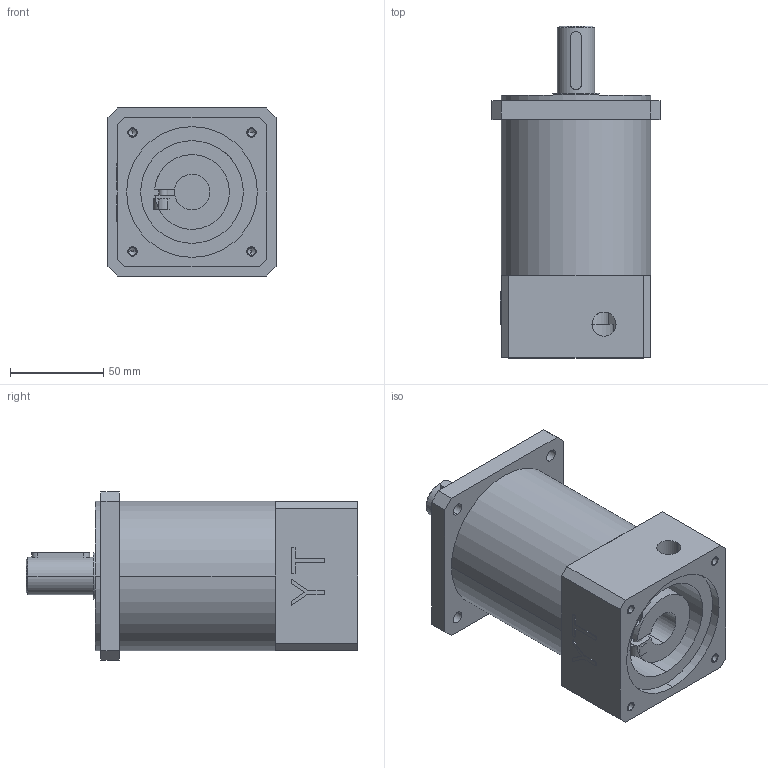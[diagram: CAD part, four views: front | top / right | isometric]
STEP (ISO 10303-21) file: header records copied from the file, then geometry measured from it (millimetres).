
FILE_DESCRIPTION((''),'2;1');
FILE_NAME('PF80L3_ASM','2014-12-27T',('Administrator'),(''),'PRO/ENGINEER BY PARAMETRIC TECHNOLOGY CORPORATION, 2013430','PRO/ENGINEER BY PARAMETRIC TECHNOLOGY CORPORATION, 2013430','');
FILE_SCHEMA(('CONFIG_CONTROL_DESIGN'));
Length unit declared in the file: millimetre
Products named in the file (6): ZHU; XIANTI80L3; LIANZHU; LUOSI; FLAND; PF80L3_ASM
Assembly tree (5 placements, depth 2):
  PF80L3_ASM
    ZHU
    XIANTI80L3
    LIANZHU
    LUOSI
    FLAND
Bounding box: 90 x 177.7 x 90 mm (x, y, z)
Volume: 719225.4 mm3; surface area: 95653.9 mm2
Topology: 5 solids, 10 shells, 136 faces, 337 edges, 219 vertices
Faces by surface type: plane 69, cylinder 55, cone 12
Entity records: 4288 total; most frequent: CARTESIAN_POINT 810, DIRECTION 743, ORIENTED_EDGE 634, EDGE_CURVE 327, AXIS2_PLACEMENT_3D 271, VERTEX_POINT 219, VECTOR 201, LINE 201
